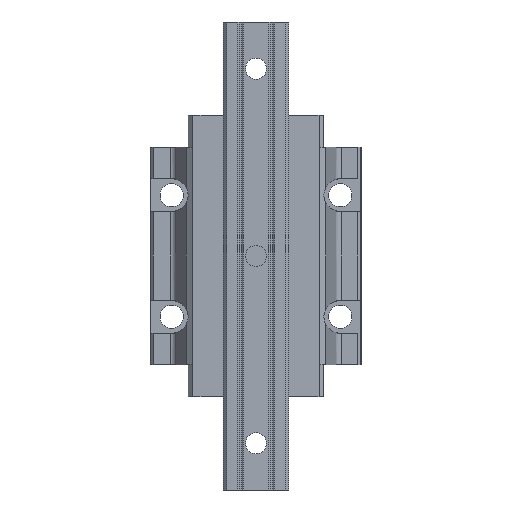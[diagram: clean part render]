
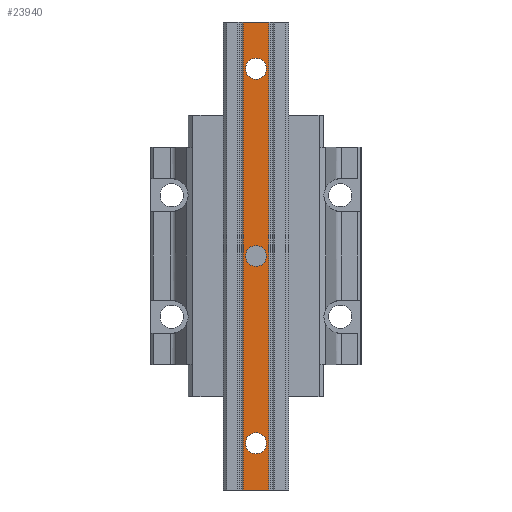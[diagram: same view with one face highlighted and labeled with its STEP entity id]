
A CAD part, front view. The second image highlights one B-rep face of the part: STEP entity #23940.
In plain terms, the highlighted planar face has unit normal (0, -1, 0).
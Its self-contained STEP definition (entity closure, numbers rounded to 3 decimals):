
#59 = DIRECTION ( 'NONE',  ( 0., 0., 1. ) ) ;
#163 = EDGE_CURVE ( 'NONE', #10869, #8964, #26330, .T. ) ;
#301 = ORIENTED_EDGE ( 'NONE', *, *, #37391, .T. ) ;
#932 = CARTESIAN_POINT ( 'NONE',  ( 0., -26., 80. ) ) ;
#1216 = VECTOR ( 'NONE', #59, 1000. ) ;
#1405 = CARTESIAN_POINT ( 'NONE',  ( 0., -26., -80. ) ) ;
#2041 = EDGE_CURVE ( 'NONE', #23021, #8144, #17200, .T. ) ;
#2659 = ORIENTED_EDGE ( 'NONE', *, *, #21706, .T. ) ;
#2873 = CARTESIAN_POINT ( 'NONE',  ( -4.5, -26., -80. ) ) ;
#3634 = VERTEX_POINT ( 'NONE', #34857 ) ;
#3831 = EDGE_LOOP ( 'NONE', ( #13881, #24339, #12802, #2659 ) ) ;
#4686 = VERTEX_POINT ( 'NONE', #14132 ) ;
#5083 = FACE_BOUND ( 'NONE', #5901, .T. ) ;
#5548 = CARTESIAN_POINT ( 'NONE',  ( 0., -26., -100. ) ) ;
#5901 = EDGE_LOOP ( 'NONE', ( #37523, #301 ) ) ;
#5947 = EDGE_LOOP ( 'NONE', ( #36126, #21718 ) ) ;
#7240 = AXIS2_PLACEMENT_3D ( 'NONE', #1405, #31174, #22794 ) ;
#8049 = EDGE_CURVE ( 'NONE', #28347, #3634, #19145, .T. ) ;
#8144 = VERTEX_POINT ( 'NONE', #35754 ) ;
#8964 = VERTEX_POINT ( 'NONE', #16253 ) ;
#9096 = CIRCLE ( 'NONE', #7240, 4.5 ) ;
#9141 = CIRCLE ( 'NONE', #35259, 4.5 ) ;
#9527 = CARTESIAN_POINT ( 'NONE',  ( 0., -26., 80. ) ) ;
#9583 = VECTOR ( 'NONE', #22786, 1000. ) ;
#9598 = DIRECTION ( 'NONE',  ( 0., 1., 0. ) ) ;
#9708 = VECTOR ( 'NONE', #12084, 1000. ) ;
#10042 = CARTESIAN_POINT ( 'NONE',  ( 5.55, -26., -100. ) ) ;
#10869 = VERTEX_POINT ( 'NONE', #10042 ) ;
#11957 = LINE ( 'NONE', #5548, #15933 ) ;
#12084 = DIRECTION ( 'NONE',  ( 1., 0., 0. ) ) ;
#12802 = ORIENTED_EDGE ( 'NONE', *, *, #15132, .T. ) ;
#13011 = AXIS2_PLACEMENT_3D ( 'NONE', #26947, #9598, #15435 ) ;
#13125 = AXIS2_PLACEMENT_3D ( 'NONE', #17531, #37936, #31538 ) ;
#13365 = DIRECTION ( 'NONE',  ( 0., 1., 0. ) ) ;
#13649 = LINE ( 'NONE', #25532, #9583 ) ;
#13881 = ORIENTED_EDGE ( 'NONE', *, *, #163, .T. ) ;
#14132 = CARTESIAN_POINT ( 'NONE',  ( -5.55, -26., -100. ) ) ;
#14148 = DIRECTION ( 'NONE',  ( -1., 0., 0. ) ) ;
#14302 = ORIENTED_EDGE ( 'NONE', *, *, #16178, .T. ) ;
#14608 = CARTESIAN_POINT ( 'NONE',  ( 0., -26., 100. ) ) ;
#14805 = LINE ( 'NONE', #14608, #9708 ) ;
#15132 = EDGE_CURVE ( 'NONE', #36458, #4686, #13649, .T. ) ;
#15435 = DIRECTION ( 'NONE',  ( -1., 0., 0. ) ) ;
#15702 = CARTESIAN_POINT ( 'NONE',  ( -4.5, -26., 0. ) ) ;
#15870 = EDGE_CURVE ( 'NONE', #36458, #8964, #14805, .T. ) ;
#15933 = VECTOR ( 'NONE', #32008, 1000. ) ;
#16178 = EDGE_CURVE ( 'NONE', #8144, #23021, #9096, .T. ) ;
#16253 = CARTESIAN_POINT ( 'NONE',  ( 5.55, -26., 100. ) ) ;
#16326 = DIRECTION ( 'NONE',  ( -1., 0., 0. ) ) ;
#16803 = AXIS2_PLACEMENT_3D ( 'NONE', #9527, #18095, #27064 ) ;
#17200 = CIRCLE ( 'NONE', #32124, 4.5 ) ;
#17531 = CARTESIAN_POINT ( 'NONE',  ( -5.55, -26., -100. ) ) ;
#18095 = DIRECTION ( 'NONE',  ( 0., 1., 0. ) ) ;
#19145 = CIRCLE ( 'NONE', #27894, 4.5 ) ;
#20245 = FACE_BOUND ( 'NONE', #36405, .T. ) ;
#21107 = CIRCLE ( 'NONE', #13011, 4.5 ) ;
#21706 = EDGE_CURVE ( 'NONE', #4686, #10869, #11957, .T. ) ;
#21718 = ORIENTED_EDGE ( 'NONE', *, *, #22980, .T. ) ;
#22180 = VERTEX_POINT ( 'NONE', #28976 ) ;
#22182 = VERTEX_POINT ( 'NONE', #31874 ) ;
#22786 = DIRECTION ( 'NONE',  ( 0., 0., -1. ) ) ;
#22794 = DIRECTION ( 'NONE',  ( -1., 0., 0. ) ) ;
#22980 = EDGE_CURVE ( 'NONE', #22180, #22182, #23661, .T. ) ;
#23021 = VERTEX_POINT ( 'NONE', #2873 ) ;
#23661 = CIRCLE ( 'NONE', #16803, 4.5 ) ;
#23940 = ADVANCED_FACE ( 'NONE', ( #20245, #31743, #5083, #32137 ), #38327, .T. ) ;
#24339 = ORIENTED_EDGE ( 'NONE', *, *, #15870, .F. ) ;
#25532 = CARTESIAN_POINT ( 'NONE',  ( -5.55, -26., -100. ) ) ;
#26330 = LINE ( 'NONE', #35278, #1216 ) ;
#26947 = CARTESIAN_POINT ( 'NONE',  ( 0., -26., 0. ) ) ;
#27064 = DIRECTION ( 'NONE',  ( -1., 0., 0. ) ) ;
#27811 = DIRECTION ( 'NONE',  ( -1., 0., 0. ) ) ;
#27894 = AXIS2_PLACEMENT_3D ( 'NONE', #37867, #38056, #14148 ) ;
#28347 = VERTEX_POINT ( 'NONE', #15702 ) ;
#28976 = CARTESIAN_POINT ( 'NONE',  ( 4.5, -26., 80. ) ) ;
#30543 = EDGE_CURVE ( 'NONE', #22182, #22180, #9141, .T. ) ;
#31174 = DIRECTION ( 'NONE',  ( 0., 1., 0. ) ) ;
#31538 = DIRECTION ( 'NONE',  ( 0., 0., -1. ) ) ;
#31743 = FACE_BOUND ( 'NONE', #5947, .T. ) ;
#31874 = CARTESIAN_POINT ( 'NONE',  ( -4.5, -26., 80. ) ) ;
#32008 = DIRECTION ( 'NONE',  ( 1., 0., 0. ) ) ;
#32090 = CARTESIAN_POINT ( 'NONE',  ( 0., -26., -80. ) ) ;
#32124 = AXIS2_PLACEMENT_3D ( 'NONE', #32090, #34398, #16326 ) ;
#32137 = FACE_OUTER_BOUND ( 'NONE', #3831, .T. ) ;
#33389 = ORIENTED_EDGE ( 'NONE', *, *, #2041, .T. ) ;
#34398 = DIRECTION ( 'NONE',  ( 0., 1., 0. ) ) ;
#34857 = CARTESIAN_POINT ( 'NONE',  ( 4.5, -26., 0. ) ) ;
#35259 = AXIS2_PLACEMENT_3D ( 'NONE', #932, #13365, #27811 ) ;
#35278 = CARTESIAN_POINT ( 'NONE',  ( 5.55, -26., -100. ) ) ;
#35754 = CARTESIAN_POINT ( 'NONE',  ( 4.5, -26., -80. ) ) ;
#36126 = ORIENTED_EDGE ( 'NONE', *, *, #30543, .T. ) ;
#36405 = EDGE_LOOP ( 'NONE', ( #33389, #14302 ) ) ;
#36458 = VERTEX_POINT ( 'NONE', #37604 ) ;
#37391 = EDGE_CURVE ( 'NONE', #3634, #28347, #21107, .T. ) ;
#37523 = ORIENTED_EDGE ( 'NONE', *, *, #8049, .T. ) ;
#37604 = CARTESIAN_POINT ( 'NONE',  ( -5.55, -26., 100. ) ) ;
#37867 = CARTESIAN_POINT ( 'NONE',  ( 0., -26., 0. ) ) ;
#37936 = DIRECTION ( 'NONE',  ( 0., -1., 0. ) ) ;
#38056 = DIRECTION ( 'NONE',  ( 0., 1., 0. ) ) ;
#38327 = PLANE ( 'NONE',  #13125 ) ;
